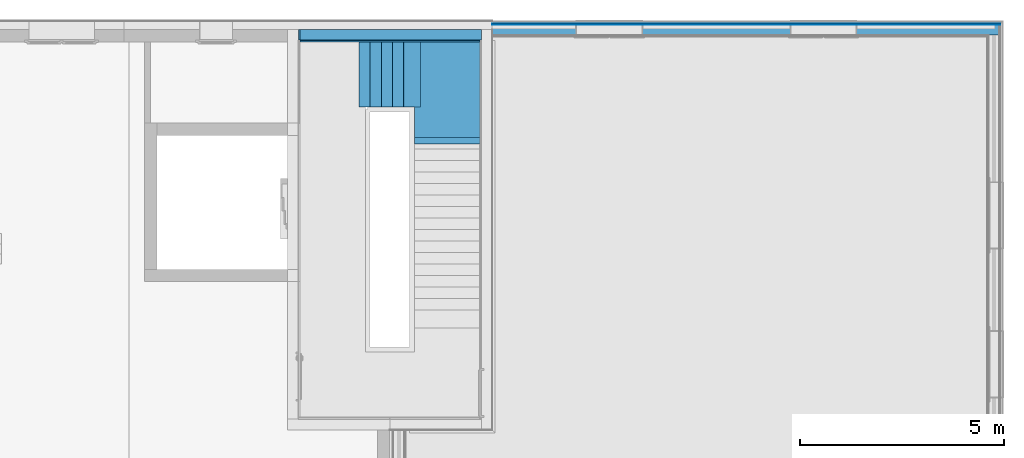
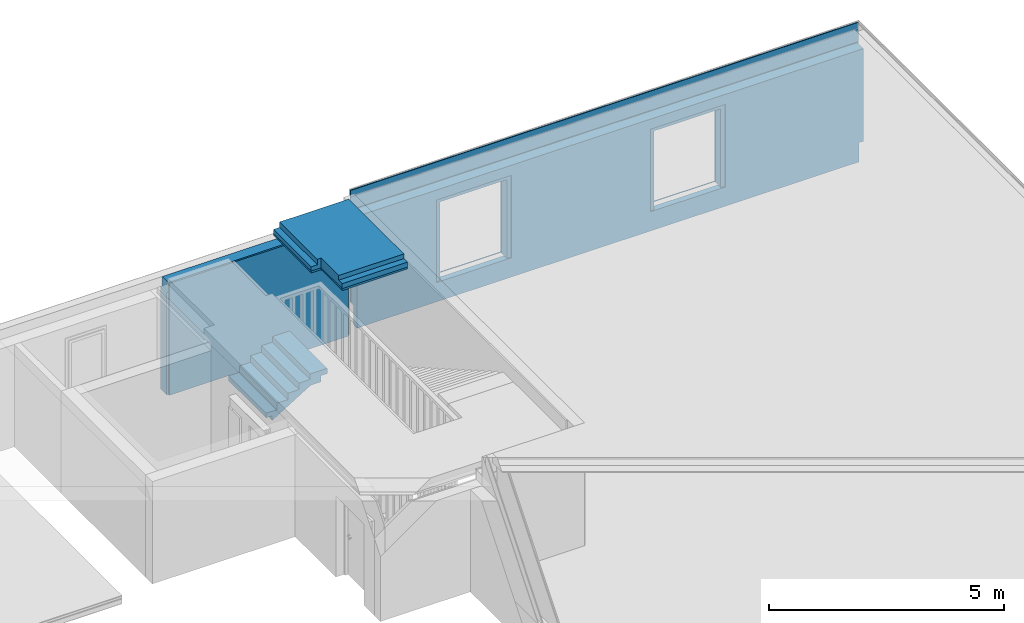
# One storey, part 17 of 20: 8 building element parts, 4 openings, 5 elements without a shape of their own.
"""IFC4 building model written with IfcOpenShell, lengths in millimetres."""

import ifcopenshell
import ifcopenshell.guid

model = None  # the IFC model being written
_history = None  # IfcOwnerHistory: only IFC2X3 demands one
_inside = {}  # id of a spatial element -> (the spatial element, [elements in it])
_under = {}  # id of a project, library or spatial element -> (it, [spatial elements below it])
_declared = {}  # id of a project -> (the project, [libraries it declares])
_typed = {}  # id of a type object -> (the type object, [elements of that type])
_made_of = {}  # id of a material, layer set ... -> (it, [elements and type objects made of it])


def new_model(schema):
    """Start an empty IFC model of exactly this schema.

    Asked for "IFC4X3", IfcOpenShell would pick the latest addendum, in which some entities
    have other attributes; the version numbers below select the first issue.
    IFC2X3 requires an IfcOwnerHistory on every rooted entity: one is made here for all.
    """
    global model, _history
    if schema == "IFC4X3":
        model = ifcopenshell.file(schema_version=(4, 3, 0, 0))
    else:
        model = ifcopenshell.file(schema=schema)
    _inside.clear()
    _under.clear()
    _declared.clear()
    _typed.clear()
    _made_of.clear()
    _history = None
    if model.schema == "IFC2X3":
        org = make("IfcOrganization", Name="unknown")
        user = make(
            "IfcPersonAndOrganization",
            ThePerson=make("IfcPerson", FamilyName="unknown"),
            TheOrganization=org,
        )
        app = make(
            "IfcApplication",
            ApplicationDeveloper=org,
            Version="unknown",
            ApplicationFullName="unknown",
            ApplicationIdentifier="unknown",
        )
        _history = make(
            "IfcOwnerHistory",
            OwningUser=user,
            OwningApplication=app,
            ChangeAction="ADDED",
            CreationDate=0,
        )
    return model


def make(cls, **values):
    """One entity of the class cls with the attributes given. An attribute that is None is left unset."""
    return model.create_entity(
        cls, **{name: value for name, value in values.items() if value is not None}
    )


def entity(cls, *values):
    """Any entity or typed value of the class cls, its attributes in the order of the schema. None: left unset."""
    e = model.create_entity(cls)
    for i, value in enumerate(values):
        if value is not None:
            e[i] = value
    return e


def rooted(cls, **values):
    """An entity with a GlobalId (a new one), such as an element, a storey or a relation."""
    return make(cls, GlobalId=ifcopenshell.guid.new(), OwnerHistory=_history, **values)


def si_unit(unit_type, name, prefix=None):
    """IfcSIUnit, for example si_unit("LENGTHUNIT", "METRE", prefix="MILLI")."""
    return make("IfcSIUnit", UnitType=unit_type, Prefix=prefix, Name=name)


def converted_unit(unit_type, name, factor, base, dimensions=None, offset=None):
    """IfcConversionBasedUnit, such as the inch: factor (a typed value) times the base unit."""
    return make(
        "IfcConversionBasedUnit"
        if offset is None
        else "IfcConversionBasedUnitWithOffset",
        ConversionOffset=offset,
        Dimensions=None
        if dimensions is None
        else entity("IfcDimensionalExponents", *dimensions),
        UnitType=unit_type,
        Name=name,
        ConversionFactor=make(
            "IfcMeasureWithUnit", ValueComponent=factor, UnitComponent=base
        ),
    )


def derived_unit(unit_type, elements):
    """IfcDerivedUnit: a product of units, each with its exponent."""
    return make(
        "IfcDerivedUnit",
        Elements=[
            make("IfcDerivedUnitElement", Unit=unit, Exponent=power)
            for unit, power in elements
        ],
        UnitType=unit_type,
    )


def assignment(units):
    """IfcUnitAssignment: the units of a project."""
    return None if units is None else make("IfcUnitAssignment", Units=units)


def point(xyz):
    """IfcCartesianPoint."""
    return None if xyz is None else make("IfcCartesianPoint", Coordinates=xyz)


def direction(xyz):
    """IfcDirection."""
    return None if xyz is None else make("IfcDirection", DirectionRatios=xyz)


def frame(location, z_axis=None, x_axis=None):
    """IfcAxis2Placement3D, a coordinate frame: its origin and axes. An axis left out is left unset."""
    return make(
        "IfcAxis2Placement3D",
        Location=point(location),
        Axis=direction(z_axis),
        RefDirection=direction(x_axis),
    )


def origin_with_axes():
    """The frame at (0, 0, 0) with the z axis (0, 0, 1) and the x axis (1, 0, 0) written out."""
    return frame((0.0, 0.0, 0.0), z_axis=(0.0, 0.0, 1.0), x_axis=(1.0, 0.0, 0.0))


def place(relative_to, where):
    """IfcLocalPlacement: puts the frame where relative to a parent placement (None: the world)."""
    return make(
        "IfcLocalPlacement", PlacementRelTo=relative_to, RelativePlacement=where
    )


def context(
    kind, dimensions, precision=None, world=None, true_north=None, identifier=None
):
    """IfcGeometricRepresentationContext, for example the 3D "Model" context."""
    return make(
        "IfcGeometricRepresentationContext",
        ContextIdentifier=identifier,
        ContextType=kind,
        CoordinateSpaceDimension=dimensions,
        Precision=precision,
        WorldCoordinateSystem=world,
        TrueNorth=true_north,
    )


def subcontext(parent, identifier, kind, view, scale=None):
    """IfcGeometricRepresentationSubContext, for example "Body" below "Model"."""
    return make(
        "IfcGeometricRepresentationSubContext",
        ContextIdentifier=identifier,
        ContextType=kind,
        ParentContext=parent,
        TargetScale=scale,
        TargetView=view,
    )


def project(units=None, contexts=None):
    """IfcProject with its units and contexts."""
    return rooted(
        "IfcProject",
        Name="project",
        RepresentationContexts=contexts,
        UnitsInContext=assignment(units),
    )


def spatial(cls, under=None, at=None, **own):
    """A site, building, storey or space (cls), placed at a placement, below another one or the project."""
    s = rooted(cls, ObjectPlacement=at, **own)
    if under is not None:
        _under.setdefault(under.id(), (under, []))[1].append(s)
    return s


def point_list(points):
    """IfcCartesianPointList2D or 3D."""
    cls = (
        "IfcCartesianPointList2D" if len(points[0]) == 2 else "IfcCartesianPointList3D"
    )
    return make(cls, CoordList=points)


def polygons(points, faces, closed=None, point_numbers=None):
    """IfcPolygonalFaceSet: a face is its outer loop, then its inner loops; points numbered from 1."""
    made = []
    for loops in faces:
        if len(loops) == 1:
            made.append(make("IfcIndexedPolygonalFace", CoordIndex=loops[0]))
        else:
            made.append(
                make(
                    "IfcIndexedPolygonalFaceWithVoids",
                    CoordIndex=loops[0],
                    InnerCoordIndices=loops[1:],
                )
            )
    return make(
        "IfcPolygonalFaceSet",
        Coordinates=point_list(points),
        Closed=closed,
        Faces=made,
        PnIndex=point_numbers,
    )


def shape(context_of_items, identifier, shape_type, items):
    """IfcShapeRepresentation: the items that make up one representation, for example the "Body"."""
    return make(
        "IfcShapeRepresentation",
        ContextOfItems=context_of_items,
        RepresentationIdentifier=identifier,
        RepresentationType=shape_type,
        Items=items,
    )


def material(Name=None, Category=None):
    """IfcMaterial."""
    return make("IfcMaterial", Name=Name, Category=Category)


def made_of(thing, what):
    """Note that an element or type object is made of a material, layer set ...; save() writes the relation."""
    if what is not None:
        _made_of.setdefault(what.id(), (what, []))[1].append(thing)
    return thing


def type_object(cls, material=None, **own):
    """A type object (cls), such as IfcWallType, which elements share."""
    return made_of(rooted(cls, **own), material)


def element(
    cls,
    number,
    at=None,
    inside=None,
    cuts=None,
    type_object=None,
    material=None,
    context=None,
    identifier="Body",
    shape_type=None,
    held_by="IfcProductDefinitionShape",
    body=None,
    shapes=None,
    **own,
):
    """One element of the class cls, such as IfcWall. Its Tag is "e" and its number.

    at: its placement. inside: the storey or other place that contains it. cuts: it is an
    opening in that element (IfcRelVoidsElement). A single representation is given by context,
    identifier, shape_type and body (its items); several are given by shapes. held_by: the class
    of the entity that holds the representations. save() writes the other relations.
    """
    e = rooted(cls, Tag="e%d" % number, ObjectPlacement=at, **own)
    if body is not None:
        shapes = [shape(context, identifier, shape_type, body)]
    if shapes is not None:
        e.Representation = make(held_by, Representations=shapes)
    if inside is not None:
        _inside.setdefault(inside.id(), (inside, []))[1].append(e)
    if cuts is not None:
        rooted(
            "IfcRelVoidsElement", RelatingBuildingElement=cuts, RelatedOpeningElement=e
        )
    if type_object is not None:
        _typed.setdefault(type_object.id(), (type_object, []))[1].append(e)
    return made_of(e, material)


def aggregate(whole, parts):
    """IfcRelAggregates: a whole, such as a stair, and the parts it consists of."""
    return rooted("IfcRelAggregates", RelatingObject=whole, RelatedObjects=parts)


def save(model, path):
    """Write the relations noted so far, then the file.

    IfcRelAggregates (storeys below a building ...), IfcRelContainedInSpatialStructure (elements
    in a storey), IfcRelDefinesByType, IfcRelAssociatesMaterial and IfcRelDeclares: one each for
    every whole, place, type object, material and project.
    """
    for whole, parts in _under.values():
        aggregate(whole, parts)
    for where, things in _inside.values():
        rooted(
            "IfcRelContainedInSpatialStructure",
            RelatedElements=things,
            RelatingStructure=where,
        )
    for kind, things in _typed.values():
        rooted("IfcRelDefinesByType", RelatedObjects=things, RelatingType=kind)
    for what, things in _made_of.values():
        rooted("IfcRelAssociatesMaterial", RelatedObjects=things, RelatingMaterial=what)
    for by, libraries in _declared.values():
        rooted("IfcRelDeclares", RelatingContext=by, RelatedDefinitions=libraries)
    model.write(path)


model = new_model("IFC4")

# Units and contexts
model_context = context("Model", 3, precision=0.01, world=origin_with_axes(), true_north=direction((0.0, 1.0)))
body_context = subcontext(model_context, "Body", "Model", "MODEL_VIEW")
ifc_project = project(units=[si_unit("LENGTHUNIT", "METRE", prefix="MILLI"), si_unit("AREAUNIT", "SQUARE_METRE"), si_unit("VOLUMEUNIT", "CUBIC_METRE"), converted_unit("PLANEANGLEUNIT", "DEGREE", entity("IfcPlaneAngleMeasure", 0.0174532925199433), si_unit("PLANEANGLEUNIT", "RADIAN"), dimensions=[0, 0, 0, 0, 0, 0, 0]), converted_unit("TIMEUNIT", "Year", entity("IfcTimeMeasure", 31557600.0), si_unit("TIMEUNIT", "SECOND"), dimensions=[0, 0, 1, 0, 0, 0, 0]), si_unit("MASSUNIT", "GRAM", prefix="KILO"), si_unit("THERMODYNAMICTEMPERATUREUNIT", "DEGREE_CELSIUS"), si_unit("LUMINOUSINTENSITYUNIT", "LUMEN"), si_unit("ENERGYUNIT", "JOULE", prefix="MEGA"), derived_unit("THERMALCONDUCTANCEUNIT", [(si_unit("POWERUNIT", "WATT"), 1), (si_unit("LENGTHUNIT", "METRE"), -1), (si_unit("THERMODYNAMICTEMPERATUREUNIT", "KELVIN"), -1)]), derived_unit("SPECIFICHEATCAPACITYUNIT", [(si_unit("ENERGYUNIT", "JOULE"), 1), (si_unit("MASSUNIT", "GRAM", prefix="KILO"), -1), (si_unit("THERMODYNAMICTEMPERATUREUNIT", "KELVIN"), -1)]), derived_unit("MASSDENSITYUNIT", [(si_unit("MASSUNIT", "GRAM", prefix="KILO"), 1), (si_unit("VOLUMEUNIT", "CUBIC_METRE"), -1)])], contexts=[model_context])

# Site, building, storey
site_placement = place(None, origin_with_axes())
site = spatial("IfcSite", under=ifc_project, at=site_placement, Name="Gelände", CompositionType="ELEMENT")
building_placement = place(site_placement, origin_with_axes())
building = spatial("IfcBuilding", under=site, at=building_placement, Name="Gebäude", CompositionType="ELEMENT")
storey_placement = place(building_placement, frame((0.0, 0.0, 5.198845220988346e-05), z_axis=(0.0, 0.0, 1.0), x_axis=(1.0, 0.0, 0.0)))
storey = spatial("IfcBuildingStorey", under=building, at=storey_placement, Name="EG", CompositionType="ELEMENT", Elevation=0.0)

# Curtain wall, openings, building element part
curtain_wall_type = type_object("IfcCurtainWallType", Name="Fassade Typ 02 - Vertikale Schalung 71", PredefinedType="NOTDEFINED")
curtain_wall_placement = place(storey_placement, frame((32928.99744477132, 37947.59728131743, 500.0000000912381), z_axis=(0.0, 0.0, 1.0), x_axis=(-1.0, 0.0, 0.0)))
curtain_wall = element("IfcCurtainWall", 1, at=curtain_wall_placement, inside=storey, type_object=curtain_wall_type, Name="Wand-014", PredefinedType="NOTDEFINED")
opening_1_placement = place(curtain_wall_placement, frame((4391.999999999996, 0.0, 9.999999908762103), z_axis=(0.0, 0.0, 1.0), x_axis=(1.0, 0.0, 0.0)))
element("IfcOpeningElement", 2, at=opening_1_placement, cuts=curtain_wall, Name="Fenster-004", context=body_context, identifier="Reference", shape_type="Tessellation", body=[
    polygons([(-821.0000000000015, -0.9999999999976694, 2030.0), (-821.0000000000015, -0.9999999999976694, 0.0), (821.0000000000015, -0.9999999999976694, 0.0), (821.0000000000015, -0.9999999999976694, 2030.0), (-821.0000000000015, 71.99999999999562, 2030.0), (-821.0000000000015, 71.99999999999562, 0.0), (821.0000000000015, 71.99999999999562, 0.0), (821.0000000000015, 71.99999999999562, 2030.0)], [[[1, 2, 3, 4]], [[5, 6, 2, 1]], [[6, 7, 3, 2]], [[7, 8, 4, 3]], [[8, 5, 1, 4]], [[7, 6, 5, 8]]], closed=True),
])
opening_2_placement = place(curtain_wall_placement, frame((9633.999999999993, 0.0, 9.999999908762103), z_axis=(0.0, 0.0, 1.0), x_axis=(1.0, 0.0, 0.0)))
element("IfcOpeningElement", 3, at=opening_2_placement, cuts=curtain_wall, Name="Fenster-004", context=body_context, identifier="Reference", shape_type="Tessellation", body=[
    polygons([(-821.0000000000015, -0.9999999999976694, 2030.0), (-821.0000000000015, -0.9999999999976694, 0.0), (821.0000000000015, -0.9999999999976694, 0.0), (821.0000000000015, -0.9999999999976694, 2030.0), (-821.0000000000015, 71.99999999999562, 2030.0), (-821.0000000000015, 71.99999999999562, 0.0), (821.0000000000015, 71.99999999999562, 0.0), (821.0000000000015, 71.99999999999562, 2030.0)], [[[1, 2, 3, 4]], [[5, 6, 2, 1]], [[6, 7, 3, 2]], [[7, 8, 4, 3]], [[8, 5, 1, 4]], [[7, 6, 5, 8]]], closed=True),
])
ifc_material_1 = material(Name="Lattenrost vertikal")
building_element_part_1_placement = place(curtain_wall_placement, origin_with_axes())
building_element_part_1 = element("IfcBuildingElementPart", 4, at=building_element_part_1_placement, material=ifc_material_1, Name="Lattenrost vertikal", PredefinedType="NOTDEFINED", context=body_context, shape_type="Tessellation", body=[
    polygons([(45.99999999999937, 70.99999999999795, 0.0), (45.99999999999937, 70.99999999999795, 2725.173192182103), (71.00000085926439, 71.00001874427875, 2727.641121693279), (12500.00000000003, 70.99999999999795, 2727.641121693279), (12500.00000000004, 70.99999999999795, 0.0), (5212.999999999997, 70.99999999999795, 2039.999999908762), (3570.999999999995, 70.99999999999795, 2039.999999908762), (3570.999999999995, 70.99999999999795, 9.999999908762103), (5212.999999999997, 70.99999999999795, 9.999999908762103), (10454.99999999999, 70.99999999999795, 9.999999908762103), (10454.99999999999, 70.99999999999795, 2039.999999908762), (8812.99999999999, 70.99999999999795, 2039.999999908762), (8812.99999999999, 70.99999999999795, 9.999999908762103), (45.99999999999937, 45.99999999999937, 0.0), (45.9999910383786, 46.00000896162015, 2725.173191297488), (12499.99999996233, 45.99999999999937, 2725.173192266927), (12500.00000000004, 45.99999999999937, 0.0), (3570.999999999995, 45.99999999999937, 2039.999999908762), (5212.999999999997, 45.99999999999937, 2039.999999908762), (3570.999999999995, 45.99999999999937, 9.999999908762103), (5212.999999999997, 45.99999999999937, 9.999999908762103), (10454.99999999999, 46.00000896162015, 9.999999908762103), (10454.99999999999, 46.00000896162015, 2039.999999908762), (8812.99999999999, 46.00000896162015, 2039.999999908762), (8812.99999999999, 46.00000896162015, 9.999999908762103)], [[[1, 2, 3, 4, 5], [6, 7, 8, 9], [10, 11, 12, 13]], [[1, 14, 15, 2]], [[2, 15, 3]], [[16, 4, 3, 15]], [[17, 5, 4, 16]], [[17, 14, 1, 5]], [[18, 7, 6, 19]], [[20, 8, 7, 18]], [[21, 9, 8, 20]], [[19, 6, 9, 21]], [[22, 23, 11, 10]], [[23, 24, 12, 11]], [[24, 25, 13, 12]], [[25, 22, 10, 13]], [[14, 17, 16, 15], [20, 18, 19, 21], [22, 25, 24, 23]]], closed=True),
    polygons([(45.99999999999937, 70.99999999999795, 2728.190165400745), (45.9999910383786, 46.00000896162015, 2728.190164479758), (45.99999999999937, 45.99999999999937, 2899.999947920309), (45.99999999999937, 70.99999999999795, 2899.999947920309), (68.29999970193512, 68.30001759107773, 2730.482074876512), (68.29999970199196, 70.99999999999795, 2730.482074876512), (12499.99999996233, 45.99999999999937, 2728.190165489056), (12500.00000000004, 45.99999999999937, 2899.999947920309), (12500.00000000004, 70.99999999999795, 2899.999947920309), (12500.00000000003, 70.99999999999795, 2760.650824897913), (71.00000085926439, 71.00001874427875, 2760.650824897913), (68.29999970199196, 70.99999999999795, 2760.650824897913), (12499.99999999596, 68.29999884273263, 2730.482074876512), (68.29999970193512, 68.30001759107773, 2760.650824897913), (12499.99999999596, 68.29999884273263, 2760.650824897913)], [[[1, 2, 3, 4]], [[5, 2, 1, 6]], [[2, 7, 8, 3]], [[3, 8, 9, 4]], [[6, 1, 4, 9, 10, 11, 12]], [[2, 5, 13, 7]], [[14, 5, 6, 12]], [[15, 10, 9, 8, 7, 13]], [[14, 12, 11, 10, 15]], [[5, 14, 15, 13]]], closed=True),
])
aggregate(curtain_wall, [building_element_part_1])

# Wall, openings, building element parts
wall_type_1 = type_object("IfcWallType", Name="Aussenwand Typ 01 318", PredefinedType="NOTDEFINED")
wall_1_placement = place(storey_placement, frame((32857.99744477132, 37876.59728131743, 0.0), z_axis=(0.0, 0.0, 1.0), x_axis=(-1.0, 0.0, 0.0)))
wall_1 = element("IfcWall", 5, at=wall_1_placement, inside=storey, type_object=wall_type_1, Name="Wand-014", PredefinedType="NOTDEFINED")
opening_3_placement = place(wall_1_placement, frame((4321.000000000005, 0.0, 560.0), z_axis=(0.0, 0.0, 1.0), x_axis=(1.0, 0.0, 0.0)))
element("IfcOpeningElement", 6, at=opening_3_placement, cuts=wall_1, Name="Fenster-004", context=body_context, identifier="Reference", shape_type="Tessellation", body=[
    polygons([(821.0000000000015, 250.0, 1981.0), (-821.0000000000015, 250.0, 1981.0), (-821.0000000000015, -0.9999999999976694, 1981.0), (821.0000000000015, -0.9999999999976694, 1981.0), (800.0000000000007, 0.0, 1981.0), (-800.0000000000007, 0.0, 1981.0), (-800.0000000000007, 149.9999999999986, 1981.0), (800.0000000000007, 149.9999999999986, 1981.0), (-821.0000000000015, 250.0, -60.00000000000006), (821.0000000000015, 250.0, -60.00000000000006), (920.9999999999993, 250.0, -60.00000000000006), (920.9999999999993, 250.0, 2081.0), (-920.9999999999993, 250.0, 2081.0), (-920.9999999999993, 250.0, -60.00000000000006), (-821.0000000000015, -0.9999999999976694, -60.00000000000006), (821.0000000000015, -0.9999999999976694, -60.00000000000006), (800.0000000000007, 0.0, 2250.0), (-800.0000000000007, 0.0, 2250.0), (-800.0000000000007, 149.9999999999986, 2250.0), (800.0000000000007, 149.9999999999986, 2250.0), (-920.9999999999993, 318.9999999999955, -60.00000000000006), (920.9999999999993, 318.9999999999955, -60.00000000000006), (920.9999999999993, 318.9999999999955, 2081.0), (-920.9999999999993, 318.9999999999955, 2081.0)], [[[1, 2, 3, 4], [5, 6, 7, 8]], [[9, 2, 1, 10, 11, 12, 13, 14]], [[2, 9, 15, 3]], [[3, 15, 16, 4]], [[10, 1, 4, 16]], [[6, 5, 17, 18]], [[7, 6, 18, 19]], [[8, 7, 19, 20]], [[5, 8, 20, 17]], [[10, 9, 14, 21, 22, 11]], [[12, 11, 22, 23]], [[13, 12, 23, 24]], [[14, 13, 24, 21]], [[9, 10, 16, 15]], [[19, 18, 17, 20]], [[23, 22, 21, 24]]], closed=True),
])
opening_4_placement = place(wall_1_placement, frame((9563.000000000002, 0.0, 560.0), z_axis=(0.0, 0.0, 1.0), x_axis=(1.0, 0.0, 0.0)))
element("IfcOpeningElement", 7, at=opening_4_placement, cuts=wall_1, Name="Fenster-004", context=body_context, identifier="Reference", shape_type="Tessellation", body=[
    polygons([(821.0000000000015, 250.0, 1981.0), (-821.0000000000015, 250.0, 1981.0), (-821.0000000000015, -0.9999999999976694, 1981.0), (821.0000000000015, -0.9999999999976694, 1981.0), (800.0000000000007, 0.0, 1981.0), (-800.0000000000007, 0.0, 1981.0), (-800.0000000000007, 149.9999999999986, 1981.0), (800.0000000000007, 149.9999999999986, 1981.0), (-821.0000000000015, 250.0, -60.00000000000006), (821.0000000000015, 250.0, -60.00000000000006), (920.9999999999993, 250.0, -60.00000000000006), (920.9999999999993, 250.0, 2081.0), (-920.9999999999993, 250.0, 2081.0), (-920.9999999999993, 250.0, -60.00000000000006), (-821.0000000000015, -0.9999999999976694, -60.00000000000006), (821.0000000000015, -0.9999999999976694, -60.00000000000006), (800.0000000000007, 0.0, 2250.0), (-800.0000000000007, 0.0, 2250.0), (-800.0000000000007, 149.9999999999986, 2250.0), (800.0000000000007, 149.9999999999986, 2250.0), (-920.9999999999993, 318.9999999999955, -60.00000000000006), (920.9999999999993, 318.9999999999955, -60.00000000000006), (920.9999999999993, 318.9999999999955, 2081.0), (-920.9999999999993, 318.9999999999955, 2081.0)], [[[1, 2, 3, 4], [5, 6, 7, 8]], [[9, 2, 1, 10, 11, 12, 13, 14]], [[2, 9, 15, 3]], [[3, 15, 16, 4]], [[10, 1, 4, 16]], [[6, 5, 17, 18]], [[7, 6, 18, 19]], [[8, 7, 19, 20]], [[5, 8, 20, 17]], [[10, 9, 14, 21, 22, 11]], [[12, 11, 22, 23]], [[13, 12, 23, 24]], [[14, 13, 24, 21]], [[9, 10, 16, 15]], [[19, 18, 17, 20]], [[23, 22, 21, 24]]], closed=True),
])
ifc_material_2 = material(Name="Ständer Konstruktion gedämmt")
building_element_part_2_placement = place(wall_1_placement, origin_with_axes())
building_element_part_2 = element("IfcBuildingElementPart", 8, at=building_element_part_2_placement, material=ifc_material_2, Name="Ständer Konstruktion gedämmt", PredefinedType="NOTDEFINED", context=body_context, shape_type="Tessellation", body=[
    polygons([(18.00000000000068, 278.0000000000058, 500.0000000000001), (18.00000000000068, 18.00000000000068, 500.0), (18.00000000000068, 18.00000000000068, 2899.999948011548), (18.00000000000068, 277.9999999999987, 2899.999948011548), (128.9999999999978, 18.00000000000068, 500.0), (128.9999999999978, 277.9999999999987, 500.0), (128.9999999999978, 129.0000000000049, 500.0), (3499.999999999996, 129.0000000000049, 500.0), (3499.999999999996, 18.00000000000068, 500.0), (3499.999999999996, 18.00000000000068, 2541.0), (3520.999999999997, 18.00000000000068, 2541.0), (3520.999999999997, 18.00000000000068, 2810.0), (5120.999999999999, 18.00000000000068, 2810.0), (5120.999999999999, 18.00000000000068, 2541.0), (5141.999999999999, 18.00000000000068, 2541.0), (5141.999999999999, 18.00000000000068, 500.0), (8741.999999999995, 18.00000000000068, 500.0), (8741.999999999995, 18.00000000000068, 2541.0), (8762.999999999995, 18.00000000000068, 2541.0), (8762.999999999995, 18.00000000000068, 2810.0), (10363.0, 18.00000000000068, 2810.0), (10363.0, 18.00000000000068, 2541.0), (10384.0, 18.00000000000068, 2541.0), (10384.0, 18.00000000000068, 500.0), (12429.00000000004, 18.00000000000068, 500.0), (12429.00000000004, 18.00000000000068, 2899.999948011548), (12429.00000000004, 277.9999999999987, 2899.999948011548), (12429.00000000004, 277.9999999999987, 0.0), (128.9999999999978, 278.0000000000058, 0.0), (3399.999999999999, 277.9999999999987, 2641.0), (3399.999999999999, 277.9999999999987, 500.0), (5241.999999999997, 277.9999999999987, 500.0), (5241.999999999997, 277.9999999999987, 2641.0), (8641.999999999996, 277.9999999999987, 500.0), (10483.99999999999, 277.9999999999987, 500.0), (10483.99999999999, 277.9999999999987, 2641.0), (8641.999999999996, 277.9999999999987, 2641.0), (128.9999999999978, 129.0000000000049, 0.0), (12429.00000000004, 128.9999999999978, 0.0), (12429.00000000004, 128.9999999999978, 500.0), (10384.0, 128.9999999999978, 500.0), (8741.999999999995, 128.9999999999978, 500.0), (5141.999999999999, 129.0000000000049, 500.0), (3499.999999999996, 250.0, 500.0), (3499.999999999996, 250.0, 2541.0), (5120.999999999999, 149.9999999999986, 2541.0), (3520.999999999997, 149.9999999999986, 2541.0), (5141.999999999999, 250.0, 2541.0), (3520.999999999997, 149.9999999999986, 2810.0), (5120.999999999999, 149.9999999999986, 2810.0), (5141.999999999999, 250.0, 500.0), (8741.999999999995, 250.0, 500.0), (8741.999999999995, 250.0, 2541.0), (10363.0, 149.9999999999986, 2541.0), (8762.999999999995, 149.9999999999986, 2541.0), (10384.0, 250.0, 2541.0), (8762.999999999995, 149.9999999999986, 2810.0), (10363.0, 149.9999999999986, 2810.0), (10384.0, 250.0, 500.0), (3399.999999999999, 250.0, 2641.0), (3399.999999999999, 250.0, 500.0), (5241.999999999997, 250.0, 500.0), (5241.999999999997, 250.0, 2641.0), (8641.999999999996, 250.0, 500.0), (10483.99999999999, 250.0, 500.0), (10483.99999999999, 250.0, 2641.0), (8641.999999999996, 250.0, 2641.0)], [[[1, 2, 3, 4]], [[5, 2, 1, 6, 7, 8, 9]], [[2, 5, 9, 10, 11, 12, 13, 14, 15, 16, 17, 18, 19, 20, 21, 22, 23, 24, 25, 26, 3]], [[4, 3, 26, 27]], [[6, 1, 4, 27, 28, 29], [30, 31, 32, 33], [34, 35, 36, 37]], [[38, 7, 6, 29]], [[7, 38, 39, 40, 41, 42, 43, 8]], [[10, 9, 8, 44, 45]], [[15, 14, 46, 47, 11, 10, 45, 48]], [[11, 47, 49, 12]], [[12, 49, 50, 13]], [[13, 50, 46, 14]], [[51, 43, 16, 15, 48]], [[42, 17, 16, 43]], [[18, 17, 42, 52, 53]], [[22, 54, 55, 19, 18, 53, 56, 23]], [[55, 57, 20, 19]], [[57, 58, 21, 20]], [[58, 54, 22, 21]], [[59, 41, 24, 23, 56]], [[40, 25, 24, 41]], [[25, 40, 39, 28, 27, 26]], [[38, 29, 28, 39]], [[60, 61, 31, 30]], [[51, 62, 32, 31, 61, 44]], [[62, 63, 33, 32]], [[63, 60, 30, 33]], [[34, 64, 52, 59, 65, 35]], [[66, 36, 35, 65]], [[67, 37, 36, 66]], [[64, 34, 37, 67]], [[52, 42, 41, 59]], [[44, 8, 43, 51]], [[44, 61, 60, 63, 62, 51, 48, 45]], [[46, 50, 49, 47]], [[64, 67, 66, 65, 59, 56, 53, 52]], [[58, 57, 55, 54]]], closed=True),
])
ifc_material_3 = material(Name="Grobspanplatte-OSB")
building_element_part_3_placement = place(wall_1_placement, origin_with_axes())
building_element_part_3 = element("IfcBuildingElementPart", 9, at=building_element_part_3_placement, material=ifc_material_3, Name="Grobspanplatte-OSB", PredefinedType="NOTDEFINED", context=body_context, shape_type="Tessellation", body=[
    polygons([(5.694190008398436e-06, 18.00000000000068, 500.0000000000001), (5.694190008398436e-06, 0.0, 500.0), (-1.490114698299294e-06, 0.0, 2899.999948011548), (-1.490114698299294e-06, 18.00000000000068, 2899.999948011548), (128.9999999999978, 0.0, 500.0), (128.9999999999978, 18.00000000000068, 500.0), (3499.999999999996, 18.00000000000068, 500.0), (3499.999999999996, 0.0, 500.0), (3499.999999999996, 0.0, 2541.0), (3520.999999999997, 0.0, 2541.0), (3520.999999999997, 0.0, 2810.0), (5120.999999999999, 0.0, 2810.0), (5120.999999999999, 0.0, 2541.0), (5141.999999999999, 0.0, 2541.0), (5141.999999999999, 0.0, 500.0), (8741.999999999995, 0.0, 500.0), (8741.999999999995, 0.0, 2541.0), (8762.999999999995, 0.0, 2541.0), (8762.999999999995, 0.0, 2810.0), (10363.0, 0.0, 2810.0), (10363.0, 0.0, 2541.0), (10384.0, 0.0, 2541.0), (10384.0, 0.0, 500.0), (12429.00000000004, 0.0, 500.0), (12429.00000000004, 0.0, 2899.999948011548), (12429.00000000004, 18.00000000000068, 2899.999948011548), (12429.00000000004, 18.00000000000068, 500.0), (10384.0, 18.00000000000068, 500.0), (10384.0, 18.00000000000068, 2541.0), (10363.0, 18.00000000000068, 2541.0), (10363.0, 18.00000000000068, 2810.0), (8762.999999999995, 18.00000000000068, 2810.0), (8762.999999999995, 18.00000000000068, 2541.0), (8741.999999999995, 18.00000000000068, 2541.0), (8741.999999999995, 18.00000000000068, 500.0), (5141.999999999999, 18.00000000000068, 500.0), (5141.999999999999, 18.00000000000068, 2541.0), (5120.999999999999, 18.00000000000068, 2541.0), (5120.999999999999, 18.00000000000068, 2810.0), (3520.999999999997, 18.00000000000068, 2810.0), (3520.999999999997, 18.00000000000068, 2541.0), (3499.999999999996, 18.00000000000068, 2541.0)], [[[1, 2, 3, 4]], [[5, 2, 1, 6, 7, 8]], [[2, 5, 8, 9, 10, 11, 12, 13, 14, 15, 16, 17, 18, 19, 20, 21, 22, 23, 24, 25, 3]], [[25, 26, 4, 3]], [[6, 1, 4, 26, 27, 28, 29, 30, 31, 32, 33, 34, 35, 36, 37, 38, 39, 40, 41, 42, 7]], [[9, 8, 7, 42]], [[41, 10, 9, 42]], [[11, 10, 41, 40]], [[12, 11, 40, 39]], [[13, 12, 39, 38]], [[13, 38, 37, 14]], [[37, 36, 15, 14]], [[35, 16, 15, 36]], [[17, 16, 35, 34]], [[17, 34, 33, 18]], [[33, 32, 19, 18]], [[32, 31, 20, 19]], [[31, 30, 21, 20]], [[29, 22, 21, 30]], [[29, 28, 23, 22]], [[27, 24, 23, 28]], [[25, 24, 27, 26]]], closed=True),
])
aggregate(wall_1, [building_element_part_2, building_element_part_3])

# Wall, building element parts
wall_type_2 = type_object("IfcWallType", Name="Aussenwand Typ 04 300", PredefinedType="NOTDEFINED")
wall_2_placement = place(storey_placement, frame((20128.99744477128, 37437.59728131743, 0.0), z_axis=(0.0, 0.0, 1.0), x_axis=(-1.0, 0.0, 0.0)))
wall_2 = element("IfcWall", 10, at=wall_2_placement, inside=storey, type_object=wall_type_2, Name="Wand-014", PredefinedType="NOTDEFINED")
ifc_material_4 = material(Name="Sichtbeton")
building_element_part_4_placement = place(wall_2_placement, origin_with_axes())
building_element_part_4 = element("IfcBuildingElementPart", 11, at=building_element_part_4_placement, material=ifc_material_4, Name="Sichtbeton", PredefinedType="NOTDEFINED", context=body_context, shape_type="Tessellation", body=[
    polygons([(0.0, -39.99999999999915, 0.0), (4399.999999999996, -39.99999999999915, 0.0), (4399.999999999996, -39.99999999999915, 2899.999948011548), (0.0, -39.99999999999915, 2899.999948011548), (0.0, 0.0, 0.0), (4399.999999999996, 0.0, 0.0), (4399.999999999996, 0.0, 2649.999948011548), (4399.999999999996, 0.0, 2899.999948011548), (0.0, 0.0, 2899.999948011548)], [[[1, 2, 3, 4]], [[5, 6, 2, 1]], [[3, 2, 6, 7, 8]], [[9, 4, 3, 8]], [[5, 1, 4, 9]], [[8, 7, 6, 5, 9]]], closed=True),
])
ifc_material_5 = material(Name="Beton bewehrt")
building_element_part_5_placement = place(wall_2_placement, origin_with_axes())
building_element_part_5 = element("IfcBuildingElementPart", 12, at=building_element_part_5_placement, material=ifc_material_5, Name="Beton bewehrt", PredefinedType="NOTDEFINED", context=body_context, shape_type="Tessellation", body=[
    polygons([(4439.999999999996, -299.9999999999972, 0.0), (4439.999999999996, -299.9999999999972, 2649.999948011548), (4399.999999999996, -299.9999999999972, 2649.999948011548), (4399.999999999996, -299.9999999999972, 2899.999948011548), (-39.99999999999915, -299.9999999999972, 2899.999948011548), (-39.99999999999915, -299.9999999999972, 0.0), (4439.999999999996, -39.99999999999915, 2649.999948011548), (4439.999999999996, -39.99999999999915, 0.0), (4399.999999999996, -39.99999999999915, 2649.999948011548), (4399.999999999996, -39.99999999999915, 2899.999948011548), (-39.99999999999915, -39.99999999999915, 2899.999948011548), (-39.99999999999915, -39.99999999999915, 0.0)], [[[1, 2, 3, 4, 5, 6]], [[7, 2, 1, 8]], [[2, 7, 9, 3]], [[9, 10, 4, 3]], [[5, 4, 10, 11]], [[6, 5, 11, 12]], [[8, 1, 6, 12]], [[7, 8, 12, 11, 10, 9]]], closed=True),
])
aggregate(wall_2, [building_element_part_4, building_element_part_5])

# Stair, building element part
stair_type = type_object("IfcStairType", Name="Treppentyp", PredefinedType="NOTDEFINED")
stair_placement = place(storey_placement, frame((17178.99744477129, 37437.59728330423, 0.0), z_axis=(0.0, 0.0, 1.0), x_axis=(-1.0, 0.0, 0.0)))
stair = element("IfcStair", 13, at=stair_placement, inside=storey, type_object=stair_type, Name="Treppe-001", PredefinedType="NOTDEFINED")
building_element_part_6_placement = place(stair_placement, origin_with_axes())
building_element_part_6 = element("IfcBuildingElementPart", 14, at=building_element_part_6_placement, PredefinedType="NOTDEFINED", context=body_context, shape_type="Tessellation", body=[
    polygons([(-1350.000129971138, 1600.0, 500.0), (-1500.000129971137, 1600.0, 500.0), (-1500.000129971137, 1600.0, 640.0), (-1080.000103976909, 1600.0, 640.0), (-1080.000103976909, 1600.0, 495.0), (-810.000077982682, 1600.0, 495.0), (-810.000077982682, 1600.0, 329.9999999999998), (-540.0000519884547, 1600.0, 329.9999999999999), (-540.0000519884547, 1600.0, 165.0000000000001), (-270.0000259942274, 1600.0, 165.0), (-270.0000259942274, 1600.0, 0.0), (0.0, 1600.0, 0.0), (0.0, 1600.0, -120.0), (-150.0, 1600.0, -120.0), (-150.0, 1600.0, -237.405739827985), (-180.0000173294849, 1600.0, -219.072397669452), (-270.0000259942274, 1600.0, -164.0723976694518), (-360.0000346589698, 1600.0, -109.0723976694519), (-450.0000433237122, 1600.0, -54.07239766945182), (-540.0000519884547, 1600.0, 0.9276023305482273), (-630.0000606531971, 1600.0, 55.92760233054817), (-720.0000693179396, 1600.0, 110.9276023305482), (-810.000077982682, 1600.0, 165.9276023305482), (-900.0000866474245, 1600.0, 220.9276023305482), (-990.0000953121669, 1600.0, 275.9276023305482), (-1080.000103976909, 1600.0, 330.9276023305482), (-1094.845847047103, 1600.0, 340.0), (-1350.000129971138, 1600.0, 340.0), (-1350.000129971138, 0.0, 500.0), (-1500.000129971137, 0.0, 500.0), (-1500.000129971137, 0.0, 640.0), (-1080.000103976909, 0.0, 640.0), (-1080.000103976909, 0.0, 495.0), (-810.000077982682, 0.0, 495.0), (-810.000077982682, 0.0, 329.9999999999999), (-540.0000519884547, 0.0, 329.9999999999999), (-540.0000519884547, 0.0, 165.0), (-270.0000259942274, 0.0, 165.0), (-270.0000259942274, 0.0, 0.0), (0.0, 0.0, 0.0), (0.0, 0.0, -120.0), (-150.0, 0.0, -120.0), (-150.0, 0.0, -237.405739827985), (-180.0000173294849, 0.0, -219.072397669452), (-270.0000259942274, 0.0, -164.0723976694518), (-360.0000346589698, 0.0, -109.0723976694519), (-450.0000433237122, 0.0, -54.07239766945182), (-540.0000519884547, 0.0, 0.9276023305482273), (-630.0000606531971, 0.0, 55.92760233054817), (-720.0000693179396, 0.0, 110.9276023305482), (-810.000077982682, 0.0, 165.9276023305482), (-900.0000866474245, 0.0, 220.9276023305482), (-990.0000953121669, 0.0, 275.9276023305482), (-1080.000103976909, 0.0, 330.9276023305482), (-1094.845847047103, 0.0, 340.0), (-1350.000129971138, 0.0, 339.9999999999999)], [[[1, 2, 3, 4, 5, 6, 7, 8, 9, 10, 11, 12, 13, 14, 15, 16, 17, 18, 19, 20, 21, 22, 23, 24, 25, 26, 27, 28]], [[2, 1, 29, 30]], [[2, 30, 31, 3]], [[3, 31, 32, 4]], [[5, 4, 32, 33]], [[5, 33, 34, 6]], [[35, 7, 6, 34]], [[7, 35, 36, 8]], [[37, 9, 8, 36]], [[9, 37, 38, 10]], [[39, 11, 10, 38]], [[11, 39, 40, 12]], [[41, 13, 12, 40]], [[14, 13, 41, 42]], [[15, 14, 42, 43]], [[15, 43, 44, 16]], [[45, 17, 16, 44]], [[46, 18, 17, 45]], [[47, 19, 18, 46]], [[48, 20, 19, 47]], [[49, 21, 20, 48]], [[50, 22, 21, 49]], [[51, 23, 22, 50]], [[52, 24, 23, 51]], [[53, 25, 24, 52]], [[54, 26, 25, 53]], [[27, 26, 54, 55]], [[56, 28, 27, 55]], [[1, 28, 56, 29]], [[29, 56, 55, 54, 53, 52, 51, 50, 49, 48, 47, 46, 45, 44, 43, 42, 41, 40, 39, 38, 37, 36, 35, 34, 33, 32, 31, 30]]], closed=True),
])
aggregate(stair, [building_element_part_6])

# Plate, building element parts
plate_type = type_object("IfcPlateType", Name="Podest Typ 01 300", PredefinedType="NOTDEFINED")
plate_placement = place(storey_placement, frame((18285.42683944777, 37437.5972813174, 3549.999948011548), z_axis=(0.0, 0.0, 1.0), x_axis=(1.0, 0.0, 0.0)))
plate = element("IfcPlate", 15, at=plate_placement, inside=storey, type_object=plate_type, Name="Deckennr.-073", PredefinedType="NOTDEFINED")
building_element_part_7_placement = place(plate_placement, origin_with_axes())
building_element_part_7 = element("IfcBuildingElementPart", 16, at=building_element_part_7_placement, material=ifc_material_5, Name="Beton bewehrt", PredefinedType="NOTDEFINED", context=body_context, shape_type="Tessellation", body=[
    polygons([(0.0, 1.98682670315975e-06, -140.0000000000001), (150.0000000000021, 1.98682670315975e-06, -140.0000000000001), (150.0000000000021, 1.98682670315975e-06, 0.0), (1843.570605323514, 0.0, 0.0), (1843.570605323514, 0.0, -250.0), (0.0, 0.0, -250.0), (0.0, -1599.999998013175, -140.0000000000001), (150.0000000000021, -1599.999998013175, -140.0000000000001), (150.0000000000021, -1599.999998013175, 0.0), (243.5705982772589, -1600.000000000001, 0.0), (243.5705982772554, -2344.999999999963, 0.0), (1843.570598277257, -2344.999999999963, 0.0), (1843.570598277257, -2344.999999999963, -120.0000000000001), (1843.570598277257, -2494.999999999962, -120.0000000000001), (1843.570605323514, -2494.999999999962, -250.0), (243.5705982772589, -1600.000000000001, -250.0), (0.0, -1600.000000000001, -250.0), (243.5705982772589, -2494.999999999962, -250.0), (243.5705982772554, -2494.999999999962, -120.0000000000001), (243.5705982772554, -2344.999999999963, -120.0000000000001)], [[[1, 2, 3, 4, 5, 6]], [[2, 1, 7, 8]], [[9, 3, 2, 8]], [[3, 9, 10, 11, 12, 4]], [[12, 13, 14, 15, 5, 4]], [[16, 17, 6, 5, 15, 18]], [[7, 1, 6, 17]], [[8, 7, 17, 16, 10, 9]], [[19, 20, 11, 10, 16, 18]], [[20, 13, 12, 11]], [[19, 14, 13, 20]], [[15, 14, 19, 18]]], closed=True),
])
building_element_part_8_placement = place(plate_placement, origin_with_axes())
building_element_part_8 = element("IfcBuildingElementPart", 17, at=building_element_part_8_placement, material=ifc_material_4, Name="Sichtbeton", PredefinedType="NOTDEFINED", context=body_context, shape_type="Tessellation", body=[
    polygons([(0.0, -1600.000000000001, -250.0), (0.0, 0.0, -250.0), (0.0, 0.0, -299.9999999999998), (0.0, -1600.000000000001, -299.9999999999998), (1843.570605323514, -2494.999999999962, -250.0), (1843.570605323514, 0.0, -250.0), (243.5705982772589, -1600.000000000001, -250.0), (243.5705982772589, -2494.999999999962, -250.0), (1843.570605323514, 0.0, -299.9999999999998), (243.5705982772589, -1600.000000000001, -299.9999999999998), (1843.570605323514, -2494.999999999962, -299.9999999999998), (243.5705982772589, -2494.999999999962, -299.9999999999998)], [[[1, 2, 3, 4]], [[5, 6, 2, 1, 7, 8]], [[2, 6, 9, 3]], [[10, 4, 3, 9, 11, 12]], [[7, 1, 4, 10]], [[6, 5, 11, 9]], [[8, 7, 10, 12]], [[5, 8, 12, 11]]], closed=True),
])
aggregate(plate, [building_element_part_7, building_element_part_8])

save(model, "model.ifc")
